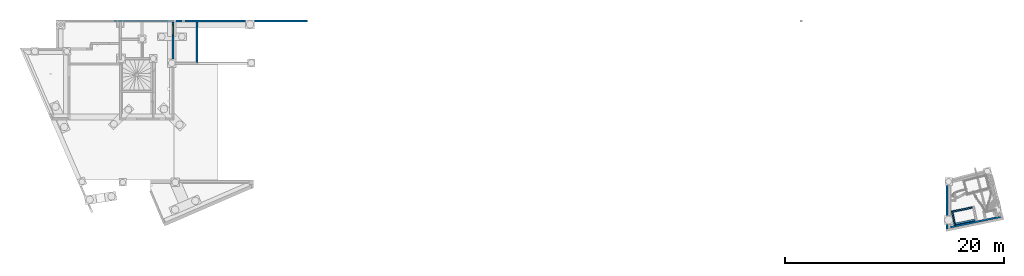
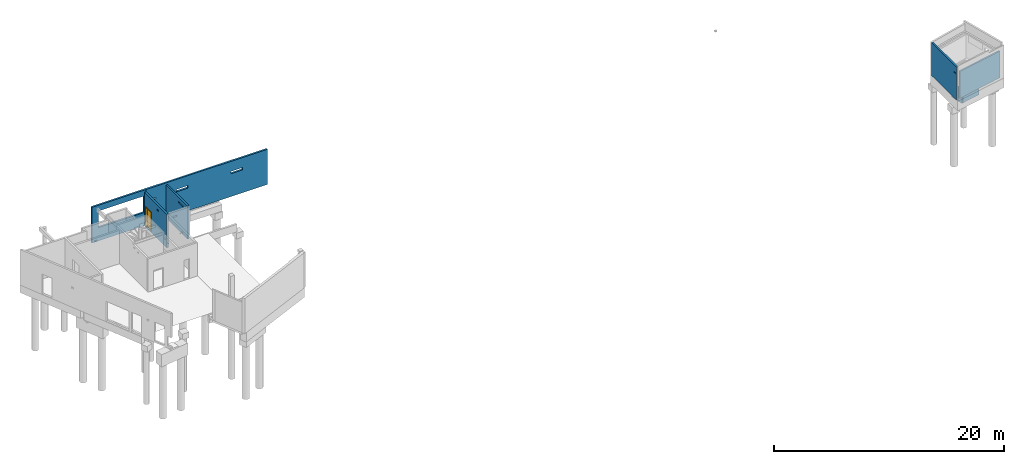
# One storey, part 6 of 29: 9 walls, 1 door, 11 openings.
"""IFC2X3 building model written with IfcOpenShell, lengths in centimetres."""

from ifc_helpers import new_model, entity, si_unit, converted_unit, derived_unit, direction, frame, frame_2d, origin, place, context, subcontext, project, spatial, polyline, rectangle, outline, extrude, clip, bounded_halfspace, faceted_brep, source, transform, mapped, material, material_list, layer, layer_set, layer_usage, type_object, type_shapes, element, fill, save


model = new_model("IFC2X3")

# Units and contexts
model_context = context("Model", 3, precision=0.001, world=origin(), true_north=direction((6.12303176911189e-17, 1.0)))
body_context = subcontext(model_context, "Body", "Model", "MODEL_VIEW")
ifc_project = project(units=[si_unit("LENGTHUNIT", "METRE", prefix="CENTI"), si_unit("AREAUNIT", "SQUARE_METRE"), si_unit("VOLUMEUNIT", "CUBIC_METRE"), converted_unit("PLANEANGLEUNIT", "DEGREE", entity("IfcRatioMeasure", 0.0174532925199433), si_unit("PLANEANGLEUNIT", "RADIAN"), dimensions=[0, 0, 0, 0, 0, 0, 0]), si_unit("MASSUNIT", "GRAM", prefix="KILO"), derived_unit("MASSDENSITYUNIT", [(si_unit("MASSUNIT", "GRAM", prefix="KILO"), 1), (si_unit("LENGTHUNIT", "METRE"), -3)]), si_unit("TIMEUNIT", "SECOND"), si_unit("FREQUENCYUNIT", "HERTZ"), si_unit("THERMODYNAMICTEMPERATUREUNIT", "DEGREE_CELSIUS"), derived_unit("THERMALTRANSMITTANCEUNIT", [(si_unit("MASSUNIT", "GRAM", prefix="KILO"), 1), (si_unit("THERMODYNAMICTEMPERATUREUNIT", "KELVIN"), -1), (si_unit("TIMEUNIT", "SECOND"), -3)]), derived_unit("VOLUMETRICFLOWRATEUNIT", [(si_unit("LENGTHUNIT", "METRE"), 3), (si_unit("TIMEUNIT", "SECOND"), -1)]), si_unit("ELECTRICCURRENTUNIT", "AMPERE"), si_unit("ELECTRICVOLTAGEUNIT", "VOLT"), si_unit("POWERUNIT", "WATT"), si_unit("FORCEUNIT", "NEWTON"), si_unit("ILLUMINANCEUNIT", "LUX"), si_unit("LUMINOUSFLUXUNIT", "LUMEN"), si_unit("LUMINOUSINTENSITYUNIT", "CANDELA"), derived_unit("USERDEFINED", [(si_unit("MASSUNIT", "GRAM", prefix="KILO"), -1), (si_unit("LENGTHUNIT", "METRE"), -2), (si_unit("TIMEUNIT", "SECOND"), 3), (si_unit("LUMINOUSFLUXUNIT", "LUMEN"), 1)]), derived_unit("LINEARVELOCITYUNIT", [(si_unit("LENGTHUNIT", "METRE"), 1), (si_unit("TIMEUNIT", "SECOND"), -1)]), si_unit("PRESSUREUNIT", "PASCAL"), derived_unit("USERDEFINED", [(si_unit("LENGTHUNIT", "METRE"), -2), (si_unit("MASSUNIT", "GRAM", prefix="KILO"), 1), (si_unit("TIMEUNIT", "SECOND"), -2)])], contexts=[model_context])

# Site, building, storey
site_placement = place(None, origin())
site = spatial("IfcSite", under=ifc_project, at=site_placement, Name="Default", CompositionType="ELEMENT")
building_placement = place(site_placement, origin())
building = spatial("IfcBuilding", under=site, at=building_placement, Name="CAGE 03", CompositionType="ELEMENT")
storey_placement = place(building_placement, frame((0.0, 0.0, -34.0)))
storey = spatial("IfcBuildingStorey", under=building, at=storey_placement, Name="+3.66", CompositionType="ELEMENT", Elevation=-34.0000000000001)

# Wall, openings
ifc_material_1 = material(Name="Béton, C25/30")
ifc_layer_1 = layer(ifc_material_1, 18.0)
ifc_layer_set_1 = layer_set([ifc_layer_1], Name="Mur de base:Voile BA 18")
ifc_layer_usage_1 = layer_usage(ifc_layer_set_1, "AXIS2", "POSITIVE", -9.0)
wall_type_1 = type_object("IfcWallType", Name="Mur de base:Voile BA 18", PredefinedType="STANDARD", material=ifc_layer_set_1)
wall_1_placement = place(storey_placement, frame((5373.36582014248, 5284.66066607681, 0.0), z_axis=(0.0, 0.0, 1.0), x_axis=(-1.0, 0.0, 0.0)))
wall_1 = element("IfcWallStandardCase", 1, at=wall_1_placement, inside=storey, type_object=wall_type_1, material=ifc_layer_usage_1, Name="Mur de base:Voile BA 18", ObjectType="Mur de base:Voile BA 18", context=body_context, shape_type="SweptSolid", body=[
    extrude(rectangle(XDim=1230.0, YDim=17.9999999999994, at=frame_2d((615.000000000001, -3.31290550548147e-13), x_axis=(-1.0, 0.0))), origin(), (0.0, 0.0, 1.0), 374.0),
])
opening_1_placement = place(storey_placement, frame((5373.36582014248, 5284.66066607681, 0.0), z_axis=(0.0, 0.0, 1.0), x_axis=(-1.0, 0.0, 0.0)))
element("IfcOpeningElement", 2, at=opening_1_placement, cuts=wall_1, Name="Mur de base:Voile BA 18:1", ObjectType="Opening", context=body_context, shape_type="SweptSolid", body=[
    extrude(rectangle(XDim=18.0000000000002, YDim=22.0000000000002, at=frame_2d((-4.33431068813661e-13, -4.33431068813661e-13), x_axis=(1.0, 0.0))), frame((1135.0, 0.0, 242.0), z_axis=(0.0, 0.0, 1.0), x_axis=(0.0, 1.0, 0.0)), (0.0, 0.0, 1.0), 12.0),
])
opening_2_placement = place(storey_placement, frame((5373.36582014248, 5284.66066607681, 0.0), z_axis=(0.0, 0.0, 1.0), x_axis=(-1.0, 0.0, 0.0)))
element("IfcOpeningElement", 3, at=opening_2_placement, cuts=wall_1, Name="Mur de base:Voile BA 18:2", ObjectType="Opening", context=body_context, shape_type="SweptSolid", body=[
    extrude(rectangle(XDim=18.0000000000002, YDim=22.0000000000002, at=frame_2d((-4.33431068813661e-13, -4.33431068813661e-13), x_axis=(1.0, 0.0))), frame((1135.0, 0.0, 42.0), z_axis=(0.0, 0.0, 1.0), x_axis=(0.0, 1.0, 0.0)), (0.0, 0.0, 1.0), 12.0),
])
opening_3_placement = place(wall_1_placement, frame((5373.36582014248, 5284.66066607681, -366.0), z_axis=(0.0, 0.0, 1.0), x_axis=(-1.0, 0.0, 0.0)))
element("IfcOpeningElement", 4, at=opening_3_placement, cuts=wall_1, Name="Mur de base:Voile BA 18", ObjectType="Opening", context=body_context, shape_type="SweptSolid", body=[
    extrude(rectangle(XDim=25.9999999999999, YDim=116.0, at=frame_2d((1.33226762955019e-14, 0.0), x_axis=(1.0, 0.0))), frame((4514.36582014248, 5428.06066607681, 621.0), z_axis=(0.0, -1.0, 0.0), x_axis=(0.0, 0.0, -1.0)), (0.0, 0.0, 1.0), 304.8),
])
opening_4_placement = place(wall_1_placement, frame((5373.36582014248, 5284.66066607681, -366.0), z_axis=(0.0, 0.0, 1.0), x_axis=(-1.0, 0.0, 0.0)))
element("IfcOpeningElement", 5, at=opening_4_placement, cuts=wall_1, Name="Mur de base:Voile BA 18", ObjectType="Opening", context=body_context, shape_type="SweptSolid", body=[
    extrude(rectangle(XDim=25.9999999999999, YDim=116.0, at=frame_2d((1.33226762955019e-14, 0.0), x_axis=(1.0, 0.0))), frame((5064.36582014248, 5428.06066607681, 621.0), z_axis=(0.0, -1.0, 0.0), x_axis=(0.0, 0.0, -1.0)), (0.0, 0.0, 1.0), 304.8),
])

# Wall, openings, door
ifc_layer_usage_2 = layer_usage(ifc_layer_set_1, "AXIS2", "POSITIVE", -9.0)
wall_2_placement = place(storey_placement, frame((4143.36582014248, 5275.66066607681, -5.0), z_axis=(0.0, 0.0, 1.0), x_axis=(0.0, -1.0, 0.0)))
wall_2 = element("IfcWallStandardCase", 6, at=wall_2_placement, inside=storey, type_object=wall_type_1, material=ifc_layer_usage_2, Name="Mur de base:Voile BA 18", ObjectType="Mur de base:Voile BA 18", context=body_context, shape_type="SweptSolid", body=[
    extrude(rectangle(XDim=389.000000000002, YDim=17.9999999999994, at=frame_2d((194.500000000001, 7.63833440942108e-14), x_axis=(-1.0, 0.0))), origin(), (0.0, 0.0, 1.0), 356.0),
])
opening_5_placement = place(storey_placement, frame((4143.36582014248, 5275.66066607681, -5.0), z_axis=(0.0, 0.0, 1.0), x_axis=(0.0, -1.0, 0.0)))
element("IfcOpeningElement", 7, at=opening_5_placement, cuts=wall_2, Name="Mur de base:Voile BA 18:1", ObjectType="Opening", context=body_context, shape_type="SweptSolid", body=[
    extrude(rectangle(XDim=17.9999999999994, YDim=30.0000000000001, at=frame_2d((8.65973959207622e-13, 0.0), x_axis=(1.0, 0.0))), frame((233.562568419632, 0.0, 298.996920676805), z_axis=(0.0, 0.0, 1.0), x_axis=(0.0, -1.0, 0.0)), (0.0, 0.0, 1.0), 14.0),
])
opening_6_placement = place(wall_2_placement, frame((22.0, -9.0, 5.0)))
opening_6 = element("IfcOpeningElement", 8, at=opening_6_placement, cuts=wall_2, Name="Int. Simple:HB93:1", ObjectType="Opening", context=body_context, shape_type="SweptSolid", body=[
    extrude(rectangle(XDim=210.000000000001, YDim=96.9999999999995, at=frame_2d((105.000000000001, 48.4999999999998), x_axis=(1.0, 0.0))), frame((0.0, 0.0, 0.0), z_axis=(0.0, 1.0, 0.0), x_axis=(0.0, 0.0, 1.0)), (0.0, 0.0, 1.0), 18.0),
])
ifc_material_2 = material(Name="Finition Peinture - Blanc satiné")
ifc_material_3 = material(Name="Bois - Panneau de porte")
ifc_material_4 = material(Name="Bois - Cadre de porte")
ifc_material_list_1 = material_list([ifc_material_2, ifc_material_3, ifc_material_4])
ifc_material_list_2 = material_list([ifc_material_2, ifc_material_3, ifc_material_4])
door_style = type_object("IfcDoorStyle", Name="HB93", ConstructionType="NOTDEFINED", OperationType="SINGLE_SWING_LEFT", ParameterTakesPrecedence=False, Sizeable=False, material=ifc_material_list_2)
shared_shape = source(origin(), body_context, "Body", "Brep", [
    faceted_brep([(10.5352761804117, -0.500000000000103, 86.6003983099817), (11.5000000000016, -0.500000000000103, 87.0), (11.5000000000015, -0.500000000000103, 108.0), (10.5352761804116, -0.500000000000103, 108.399601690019), (9.50000000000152, -0.500000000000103, 108.535898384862), (8.46472381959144, -0.500000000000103, 108.399601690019), (7.50000000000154, -0.500000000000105, 108.0), (7.50000000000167, -0.500000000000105, 87.0), (8.46472381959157, -0.500000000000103, 86.6003983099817), (9.50000000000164, -0.500000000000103, 86.464101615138), (10.5352761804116, 0.0, 108.399601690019), (11.5000000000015, 0.0, 108.0), (11.5000000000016, 0.0, 87.0), (10.5352761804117, 0.0, 86.6003983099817), (9.50000000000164, 0.0, 86.464101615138), (8.46472381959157, 0.0, 86.6003983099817), (7.50000000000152, 0.0, 87.0), (7.50000000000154, 0.0, 108.0), (8.46472381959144, 0.0, 108.399601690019), (9.50000000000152, 0.0, 108.535898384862)], [[[0, 1, 2, 3, 4, 5, 6, 7, 8, 9]], [[10, 11, 12, 13, 14, 15, 16, 17, 18, 19]], [[16, 15, 8, 7]], [[8, 15, 14, 9]], [[14, 13, 0, 9]], [[13, 12, 1, 0]], [[2, 1, 12, 11]], [[11, 10, 3, 2]], [[3, 10, 19, 4]], [[19, 18, 5, 4]], [[18, 17, 6, 5]], [[7, 6, 17, 16]]]),
    faceted_brep([(10.5352761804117, 4.0, 86.6003983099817), (11.5000000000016, 4.0, 87.0), (11.5000000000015, 4.0, 108.0), (10.5352761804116, 4.0, 108.399601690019), (9.50000000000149, 4.0, 108.535898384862), (8.46472381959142, 4.0, 108.399601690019), (7.50000000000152, 4.0, 108.0), (7.50000000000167, 4.0, 87.0), (8.46472381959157, 4.0, 86.6003983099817), (9.50000000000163, 4.0, 86.464101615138), (10.5352761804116, 4.49999999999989, 108.399601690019), (11.5000000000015, 4.4999999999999, 108.0), (11.5000000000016, 4.4999999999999, 87.0), (10.5352761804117, 4.49999999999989, 86.6003983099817), (9.50000000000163, 4.49999999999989, 86.464101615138), (8.46472381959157, 4.49999999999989, 86.6003983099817), (7.50000000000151, 4.49999999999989, 87.0), (7.50000000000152, 4.49999999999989, 108.0), (8.46472381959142, 4.49999999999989, 108.399601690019), (9.50000000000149, 4.49999999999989, 108.535898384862)], [[[0, 1, 2, 3, 4, 5, 6, 7, 8, 9]], [[10, 11, 12, 13, 14, 15, 16, 17, 18, 19]], [[11, 10, 3, 2]], [[3, 10, 19, 4]], [[19, 18, 5, 4]], [[18, 17, 6, 5]], [[7, 6, 17, 16]], [[16, 15, 8, 7]], [[8, 15, 14, 9]], [[14, 13, 0, 9]], [[13, 12, 1, 0]], [[2, 1, 12, 11]]]),
    faceted_brep([(9.29747013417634, -0.500000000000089, 100.778044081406), (9.70252986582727, -0.500000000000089, 100.778044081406), (10.1000000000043, -0.500000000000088, 100.699999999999), (10.1000000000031, -0.500000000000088, 99.3000000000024), (9.70252986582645, -0.500000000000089, 99.2219559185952), (9.29747013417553, -0.500000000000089, 99.221955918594), (8.89999999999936, -0.500000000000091, 99.2999999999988), (8.89999999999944, -0.500000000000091, 100.7), (8.89999999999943, -3.26509507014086, 100.7), (9.29747013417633, -3.10045754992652, 100.778044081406), (10.9023585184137, -4.70534593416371, 100.778044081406), (11.0701397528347, -4.30028620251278, 100.778044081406), (9.70252986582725, -2.93267631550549, 100.778044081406), (10.1000000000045, -2.76803879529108, 100.7), (10.1000000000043, -2.76803879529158, 99.3000000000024), (9.70252986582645, -2.93267631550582, 99.2219559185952), (11.0701397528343, -4.30028620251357, 99.2219559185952), (10.9023585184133, -4.70534593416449, 99.221955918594), (9.29747013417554, -3.10045754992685, 99.221955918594), (8.89999999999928, -3.26509507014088, 99.2999999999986), (10.7377209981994, -5.1028160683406, 100.7), (11.2347772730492, -3.90281606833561, 100.7), (11.2347772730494, -3.90281606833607, 99.3000000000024), (10.7377209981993, -5.10281606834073, 99.2999999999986), (19.5018640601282, -5.1028160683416, 99.2999999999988), (19.5018640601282, -4.70534593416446, 99.221955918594), (19.5018640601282, -4.30028620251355, 99.2219559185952), (19.5018640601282, -3.90281606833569, 99.3000000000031), (19.5018640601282, -3.90281606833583, 100.7), (19.5018640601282, -4.30028620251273, 100.778044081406), (19.5018640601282, -4.70534593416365, 100.778044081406), (19.5018640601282, -5.10281606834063, 100.699999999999), (14.7307697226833, -5.10281606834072, 100.7), (15.28600190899, -4.5028160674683, 100.78786867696), (15.3683206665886, -3.9028160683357, 100.7), (15.3683206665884, -3.90281606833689, 99.3000000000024), (15.2860018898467, -4.50281607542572, 99.2121313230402), (14.7307700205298, -5.10281606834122, 99.2999999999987)], [[[0, 1, 2, 3, 4, 5, 6, 7]], [[8, 9, 0, 7]], [[9, 10, 11, 12, 1, 0]], [[12, 13, 2, 1]], [[3, 2, 13, 14]], [[14, 15, 4, 3]], [[15, 16, 17, 18, 5, 4]], [[18, 19, 6, 5]], [[7, 6, 19, 8]], [[20, 10, 9, 8]], [[11, 21, 13, 12]], [[14, 13, 21, 22]], [[22, 16, 15, 14]], [[17, 23, 19, 18]], [[8, 19, 23, 20]], [[24, 25, 26, 27, 28, 29, 30, 31]], [[32, 30, 33]], [[31, 30, 32]], [[10, 20, 32]], [[33, 34, 11]], [[21, 11, 34]], [[34, 29, 28]], [[30, 29, 33]], [[29, 34, 33]], [[10, 32, 33]], [[10, 33, 11]], [[22, 21, 34, 28, 27, 35]], [[35, 26, 36]], [[37, 36, 25]], [[22, 35, 16]], [[35, 27, 26]], [[24, 37, 25]], [[23, 17, 37]], [[37, 17, 36]], [[17, 16, 36]], [[16, 35, 36]], [[25, 36, 26]], [[20, 23, 37, 24, 31, 32]]]),
    faceted_brep([(9.29747013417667, 4.49999999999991, 100.778044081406), (8.89999999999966, 4.49999999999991, 100.7), (8.89999999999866, 4.49999999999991, 99.2999999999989), (9.2974701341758, 4.49999999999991, 99.221955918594), (9.70252986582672, 4.49999999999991, 99.2219559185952), (10.1000000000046, 4.49999999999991, 99.3000000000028), (10.1000000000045, 4.49999999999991, 100.7), (9.70252986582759, 4.49999999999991, 100.778044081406), (10.1000000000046, 6.7485204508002, 99.3000000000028), (10.1000000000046, 6.74852045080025, 100.7), (9.70252986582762, 6.91315797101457, 100.778044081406), (11.0838906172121, 8.29451872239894, 100.778044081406), (10.9161093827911, 8.69957845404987, 100.778044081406), (9.29747013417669, 7.0809392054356, 100.778044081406), (8.89999999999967, 7.24557672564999, 100.7), (8.89999999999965, 7.24557672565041, 99.2999999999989), (9.29747013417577, 7.08093920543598, 99.221955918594), (10.9161093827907, 8.69957845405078, 99.221955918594), (11.0838906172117, 8.29451872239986, 99.2219559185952), (9.7025298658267, 6.91315797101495, 99.2219559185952), (11.2485281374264, 7.89704858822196, 99.3000000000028), (11.2485281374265, 7.89704858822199, 100.7), (10.7514718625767, 9.0970485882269, 100.7), (10.751471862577, 9.0970485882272, 99.2999999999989), (19.504578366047, 7.89704858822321, 99.3000000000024), (19.504578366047, 8.29451872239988, 99.2219559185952), (19.504578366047, 8.6995784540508, 99.221955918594), (19.504578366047, 9.09704858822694, 99.2999999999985), (19.504578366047, 9.09704858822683, 100.7), (19.504578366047, 8.69957845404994, 100.778044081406), (19.504578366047, 8.29451872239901, 100.778044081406), (19.504578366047, 7.89704858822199, 100.7), (15.3765520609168, 7.89704858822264, 99.3000000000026), (15.3765532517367, 7.89704858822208, 100.7), (15.294234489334, 8.49704858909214, 100.78786867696), (14.7445205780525, 9.09704858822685, 100.7), (14.7445204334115, 9.09704858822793, 99.2999999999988), (15.2942345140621, 8.49704858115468, 99.2121313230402)], [[[0, 1, 2, 3, 4, 5, 6, 7]], [[6, 5, 8, 9]], [[9, 10, 7, 6]], [[10, 11, 12, 13, 0, 7]], [[13, 14, 1, 0]], [[2, 1, 14, 15]], [[15, 16, 3, 2]], [[16, 17, 18, 19, 4, 3]], [[19, 8, 5, 4]], [[9, 8, 20, 21]], [[21, 11, 10, 9]], [[12, 22, 14, 13]], [[15, 14, 22, 23]], [[23, 17, 16, 15]], [[18, 20, 8, 19]], [[24, 25, 26, 27, 28, 29, 30, 31]], [[21, 20, 32, 24, 31, 33]], [[33, 30, 34]], [[35, 34, 29]], [[21, 33, 11]], [[33, 31, 30]], [[28, 35, 29]], [[22, 12, 35]], [[35, 12, 34]], [[12, 11, 34]], [[11, 33, 34]], [[29, 34, 30]], [[22, 35, 28, 27, 36, 23]], [[36, 26, 37]], [[27, 26, 36]], [[17, 23, 36]], [[37, 32, 18]], [[20, 18, 32]], [[32, 25, 24]], [[26, 25, 37]], [[25, 32, 37]], [[17, 36, 37]], [[17, 37, 18]]]),
    faceted_brep([(3.50000000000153, 4.0, 206.5), (93.5000000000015, 4.0, 206.5), (93.5000000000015, 4.0, 0.0), (3.50000000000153, 4.0, 0.0), (3.50000000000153, 0.0, 206.5), (3.50000000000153, 0.0, 0.0), (93.5000000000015, 0.0, 0.0), (93.5000000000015, 0.0, 206.5)], [[[0, 1, 2, 3]], [[4, 5, 6, 7]], [[1, 0, 4, 7]], [[2, 1, 7, 6]], [[3, 2, 6, 5]], [[0, 3, 5, 4]]]),
    faceted_brep([(0.0, 0.0, 0.0), (0.0, 18.0, 0.0), (5.0, 18.0, 0.0), (5.0, 4.0, 0.0), (3.50000000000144, 4.0, 0.0), (3.50000000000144, 0.0, 0.0), (0.0, 0.0, 210.0), (0.0, 18.0, 210.0), (97.0, 18.0, 210.0), (97.0, 18.0, 0.0), (92.0, 18.0, 0.0), (92.0, 18.0, 205.0), (5.0, 18.0, 205.0), (5.0, 4.0, 205.0), (92.0, 4.0, 205.0), (92.0, 4.0, 0.0), (93.4999999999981, 4.0, 0.0), (93.4999999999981, 4.0, 206.5), (3.50000000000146, 4.0, 206.5), (3.50000000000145, 0.0, 206.5), (93.4999999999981, 0.0, 206.5), (93.4999999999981, 0.0, 0.0), (97.0, 0.0, 0.0), (97.0, 0.0, 210.0)], [[[0, 1, 2, 3, 4, 5]], [[1, 0, 6, 7]], [[2, 1, 7, 8, 9, 10, 11, 12]], [[3, 2, 12, 13]], [[4, 3, 13, 14, 15, 16, 17, 18]], [[5, 4, 18, 19]], [[0, 5, 19, 20, 21, 22, 23, 6]], [[8, 23, 22, 9]], [[22, 21, 16, 15, 10, 9]], [[14, 11, 10, 15]], [[20, 17, 16, 21]], [[7, 6, 23, 8]], [[13, 12, 11, 14]], [[19, 18, 17, 20]]]),
    faceted_brep([(1.5, 18.0, 0.0), (-1.49999999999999, 18.0, 0.0), (-1.49999999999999, 18.5000000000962, 0.0), (1.5, 18.5000000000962, 0.0), (1.5, 18.0, 208.500000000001), (95.4999999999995, 18.0, 208.500000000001), (95.4999999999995, 18.0, 0.0), (98.4999999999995, 18.0, 0.0), (98.4999999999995, 18.0, 211.500000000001), (-1.49999999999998, 18.0, 211.500000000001), (-1.49999999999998, 18.5000000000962, 211.500000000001), (98.4999999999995, 18.5000000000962, 211.500000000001), (98.4999999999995, 18.5000000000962, 0.0), (95.4999999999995, 18.5000000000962, 0.0), (95.4999999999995, 18.5000000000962, 208.500000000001), (1.50000000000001, 18.5000000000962, 208.500000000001)], [[[0, 1, 2, 3]], [[1, 0, 4, 5, 6, 7, 8, 9]], [[2, 1, 9, 10]], [[3, 2, 10, 11, 12, 13, 14, 15]], [[0, 3, 15, 4]], [[6, 13, 12, 7]], [[5, 14, 13, 6]], [[11, 8, 7, 12]], [[10, 9, 8, 11]], [[4, 15, 14, 5]]]),
    faceted_brep([(-1.49999999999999, -0.5, 0.0), (1.5, -0.5, 0.0), (1.5, -0.5, 208.500000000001), (95.4999999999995, -0.5, 208.500000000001), (95.4999999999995, -0.5, 0.0), (98.4999999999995, -0.5, 0.0), (98.4999999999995, -0.5, 211.500000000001), (-1.49999999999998, -0.5, 211.500000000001), (-1.49999999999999, 0.0, 0.0), (-1.49999999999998, 0.0, 211.500000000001), (1.5, 0.0, 0.0), (98.4999999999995, 0.0, 211.500000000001), (98.4999999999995, 0.0, 0.0), (95.4999999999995, 0.0, 0.0), (95.4999999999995, 0.0, 208.500000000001), (1.50000000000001, 0.0, 208.500000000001)], [[[0, 1, 2, 3, 4, 5, 6, 7]], [[8, 0, 7, 9]], [[10, 8, 9, 11, 12, 13, 14, 15]], [[1, 10, 15, 2]], [[3, 14, 13, 4]], [[11, 6, 5, 12]], [[9, 7, 6, 11]], [[2, 15, 14, 3]], [[4, 13, 12, 5]], [[1, 0, 8, 10]]]),
])
type_shapes(door_style, [shared_shape])
door_placement = place(opening_6_placement, frame((97.0, 18.0, 0.0), z_axis=(0.0, 0.0, 1.0), x_axis=(-1.0, 0.0, 0.0)))
door = element("IfcDoor", 9, at=door_placement, inside=storey, type_object=door_style, material=ifc_material_list_1, Name="Int. Simple:HB93", ObjectType="HB93", OverallHeight=210.000000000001, OverallWidth=96.9999999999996, context=body_context, shape_type="MappedRepresentation", body=[
    mapped(shared_shape, transform((0.0, 0.0, 0.0), scale=1.0)),
])
fill(opening_6, door)

# Wall, opening
ifc_layer_usage_3 = layer_usage(ifc_layer_set_1, "AXIS2", "POSITIVE", -9.0)
wall_3_placement = place(storey_placement, frame((4361.36582014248, 5275.66066607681, 0.0), z_axis=(0.0, 0.0, 1.0), x_axis=(0.0, -1.0, 0.0)))
wall_3 = element("IfcWallStandardCase", 10, at=wall_3_placement, inside=storey, type_object=wall_type_1, material=ifc_layer_usage_3, Name="Mur de base:Voile BA 18", ObjectType="Mur de base:Voile BA 18", context=body_context, shape_type="SweptSolid", body=[
    extrude(rectangle(XDim=371.000000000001, YDim=17.9999999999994, at=frame_2d((185.500000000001, 8.5265128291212e-14), x_axis=(-1.0, 0.0))), origin(), (0.0, 0.0, 1.0), 351.0),
])
opening_7_placement = place(storey_placement, frame((4361.36582014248, 5275.66066607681, 0.0), z_axis=(0.0, 0.0, 1.0), x_axis=(0.0, -1.0, 0.0)))
element("IfcOpeningElement", 11, at=opening_7_placement, cuts=wall_3, Name="Mur de base:Voile BA 18:1", ObjectType="Opening", context=body_context, shape_type="SweptSolid", body=[
    extrude(rectangle(XDim=18.0000000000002, YDim=72.0000000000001, at=frame_2d((-4.33431068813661e-13, 4.33431068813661e-13), x_axis=(1.0, 0.0))), frame((254.925783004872, 0.0, 294.076580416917), z_axis=(0.0, 0.0, 1.0), x_axis=(0.0, 1.0, 0.0)), (0.0, 0.0, 1.0), 14.0),
])

ifc_layer_usage_4 = layer_usage(ifc_layer_set_1, "AXIS2", "NEGATIVE", 9.0)
wall_4_placement = place(storey_placement, frame((11210.3658201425, 3819.7782005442, 0.0), z_axis=(0.0, 0.0, 1.0), x_axis=(0.0, -1.0, 0.0)))
wall_4 = element("IfcWallStandardCase", 12, at=wall_4_placement, inside=storey, type_object=wall_type_1, material=ifc_layer_usage_4, Name="Mur de base:Voile BA 18", ObjectType="Mur de base:Voile BA 18", context=body_context, shape_type="SweptSolid", body=[
    extrude(outline(polyline([(436.428851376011, -9.0), (432.718979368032, 9.0), (0.0, 9.0), (4.70077462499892, -9.0), (436.428851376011, -9.0)])), origin(), (0.0, 0.0, 1.0), 351.0),
])
opening_8_placement = place(storey_placement, frame((11210.3658201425, 3819.7782005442, 0.0), z_axis=(0.0, 0.0, 1.0), x_axis=(0.0, -1.0, 0.0)))
element("IfcOpeningElement", 13, at=opening_8_placement, cuts=wall_4, Name="Mur de base:Voile BA 18:1", ObjectType="Opening", context=body_context, shape_type="SweptSolid", body=[
    extrude(rectangle(XDim=17.9999999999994, YDim=30.0000000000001, at=frame_2d((-8.65973959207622e-13, 0.0), x_axis=(1.0, 0.0))), frame((403.907333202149, 0.0, 269.513701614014), z_axis=(0.0, 0.0, 1.0), x_axis=(0.0, -1.0, 0.0)), (0.0, 0.0, 1.0), 15.0),
])

# Wall, openings
ifc_layer_usage_5 = layer_usage(ifc_layer_set_1, "AXIS2", "POSITIVE", -9.0)
wall_5_placement = place(storey_placement, frame((4152.36582014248, 5284.66066607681, -5.0), z_axis=(0.0, 0.0, 1.0), x_axis=(-1.0, 0.0, 0.0)))
wall_5 = element("IfcWallStandardCase", 14, at=wall_5_placement, inside=storey, type_object=wall_type_1, material=ifc_layer_usage_5, Name="Mur de base:Voile BA 18", ObjectType="Mur de base:Voile BA 18", context=body_context, shape_type="SweptSolid", body=[
    extrude(rectangle(XDim=545.999999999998, YDim=18.0000000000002, at=frame_2d((272.999999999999, -5.24025267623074e-14), x_axis=(-1.0, 0.0))), origin(), (0.0, 0.0, 1.0), 379.0),
])
opening_9_placement = place(wall_5_placement, origin())
element("IfcOpeningElement", 15, at=opening_9_placement, cuts=wall_5, Name="Mur de base:Voile BA 18", ObjectType="Opening", context=body_context, shape_type="SweptSolid", body=[
    extrude(rectangle(XDim=312.0, YDim=529.0, at=frame_2d((0.0, -4.2632564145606e-13), x_axis=(1.0, 0.0))), frame((810.499999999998, -161.399999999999, 161.0), z_axis=(0.0, 1.0, 0.0), x_axis=(0.0, 0.0, 1.0)), (0.0, 0.0, 1.0), 304.8),
])
opening_10_placement = place(wall_5_placement, frame((4152.36582014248, 5284.66066607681, 0.0), z_axis=(0.0, 0.0, 1.0), x_axis=(-1.0, 0.0, 0.0)))
element("IfcOpeningElement", 16, at=opening_10_placement, cuts=wall_5, Name="Mur de base:Voile BA 18", ObjectType="Opening", context=body_context, shape_type="SweptSolid", body=[
    extrude(rectangle(XDim=176.0, YDim=456.0, at=frame_2d((2.1316282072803e-13, 0.0), x_axis=(0.0, 1.0))), frame((3903.36582014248, 5428.06066607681, 229.0), z_axis=(0.0, -1.0, 0.0), x_axis=(1.0, 0.0, 0.0)), (0.0, 0.0, 1.0), 304.8),
])

# Wall, opening
ifc_layer_2 = layer(ifc_material_1, 16.0)
ifc_layer_set_2 = layer_set([ifc_layer_2], Name="Mur de base:Voile BA 16")
ifc_layer_usage_6 = layer_usage(ifc_layer_set_2, "AXIS2", "POSITIVE", -8.0)
wall_type_2 = type_object("IfcWallType", Name="Mur de base:Voile BA 16", PredefinedType="STANDARD", material=ifc_layer_set_2)
wall_6_placement = place(storey_placement, frame((11238.7509307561, 3402.28577396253, 1.0), z_axis=(0.0, 0.0, 1.0), x_axis=(0.979414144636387, 0.201861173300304, 0.0)))
wall_6 = element("IfcWallStandardCase", 17, at=wall_6_placement, inside=storey, type_object=wall_type_2, material=ifc_layer_usage_6, Name="Mur de base:Voile BA 16", ObjectType="Mur de base:Voile BA 16", context=body_context, shape_type="SweptSolid", body=[
    extrude(outline(polyline([(469.743578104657, -8.0), (469.743578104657, 8.0), (3.2976640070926, 8.0), (0.0, -8.0), (469.743578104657, -8.0)])), origin(), (0.0, 0.0, 1.0), 284.0),
])
opening_11_placement = place(storey_placement, frame((11238.7509307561, 3402.28577396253, 1.0), z_axis=(0.0, 0.0, 1.0), x_axis=(0.979414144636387, 0.201861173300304, 0.0)))
element("IfcOpeningElement", 18, at=opening_11_placement, cuts=wall_6, Name="Mur de base:Voile BA 16:1", ObjectType="Opening", context=body_context, shape_type="SweptSolid", body=[
    extrude(outline(polyline([(-280.603849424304, -2.5913934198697), (186.769532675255, -2.59139341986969), (186.769532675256, 1.36557367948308), (186.741165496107, 1.90860658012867), (-279.67638142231, 1.90860658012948), (-280.603849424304, -2.5913934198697)])), frame((282.974045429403, 6.0913934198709, 249.0)), (0.0, 0.0, 1.0), 20.0),
])

# Walls
ifc_layer_3 = layer(ifc_material_1, 15.0)
ifc_layer_set_3 = layer_set([ifc_layer_3], Name="Mur de base:Voile BA 15")
ifc_layer_usage_7 = layer_usage(ifc_layer_set_3, "AXIS2", "POSITIVE", -7.5)
wall_type_3 = type_object("IfcWallType", Name="Mur de base:Voile BA 15", PredefinedType="STANDARD", material=ifc_layer_set_3)
wall_7_placement = place(storey_placement, frame((11263.5709911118, 3545.74929986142, -80.0), z_axis=(0.0, 0.0, 1.0), x_axis=(0.979414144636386, 0.201861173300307, 0.0)))
element("IfcWallStandardCase", 19, at=wall_7_placement, inside=storey, type_object=wall_type_3, material=ifc_layer_usage_7, Name="Mur de base:Voile BA 15", ObjectType="Mur de base:Voile BA 15", context=body_context, shape_type="SweptSolid", body=[
    extrude(rectangle(XDim=185.000000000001, YDim=14.9999999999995, at=frame_2d((92.5000000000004, 2.66453525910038e-14), x_axis=(-1.0, 0.0))), origin(), (0.0, 0.0, 1.0), 78.5),
])
ifc_layer_usage_8 = layer_usage(ifc_layer_set_3, "AXIS2", "POSITIVE", -7.5)
wall_8_placement = place(storey_placement, frame((11281.9626846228, 3419.36003762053, -80.0), z_axis=(0.0, 0.0, 1.0), x_axis=(-0.201861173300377, 0.979414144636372, 0.0)))
element("IfcWallStandardCase", 20, at=wall_8_placement, inside=storey, type_object=wall_type_3, material=ifc_layer_usage_8, Name="Mur de base:Voile BA 15", ObjectType="Mur de base:Voile BA 15", context=body_context, shape_type="Clipping", body=[
    clip(extrude(rectangle(XDim=134.999999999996, YDim=15.0000000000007, at=frame_2d((67.4999999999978, -5.31574784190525e-13), x_axis=(-1.0, 0.0))), origin(), (0.0, 0.0, 1.0), 68.0), bounded_halfspace(frame((5.0, -7.49999999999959, 68.0), z_axis=(0.0, 0.0, -1.0), x_axis=(-0.998638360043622, -0.0521672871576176, 0.0)), True, frame((5.0, -7.49999999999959, 68.0), z_axis=(0.0, 0.0, -1.0), x_axis=(-0.998638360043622, -0.0521672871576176, 0.0)), polyline([(0.0, 0.0), (4.99319180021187, 0.260836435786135), (4.2106824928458, 15.2404118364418), (-130.605496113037, 8.19782807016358), (-129.822986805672, -6.78174733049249), (0.0, 0.0)]))),
])
ifc_layer_4 = layer(ifc_material_1, 20.0)
ifc_layer_set_4 = layer_set([ifc_layer_4], Name="Mur de base:Voile BA 20")
ifc_layer_usage_9 = layer_usage(ifc_layer_set_4, "AXIS2", "NEGATIVE", 10.0)
wall_type_4 = type_object("IfcWallType", Name="Mur de base:Voile BA 20", PredefinedType="STANDARD", material=ifc_layer_set_4)
wall_9_placement = place(storey_placement, frame((11287.2896789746, 3430.66813786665, -80.0), z_axis=(0.0, 0.0, 1.0), x_axis=(0.979414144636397, 0.201861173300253, 0.0)))
element("IfcWallStandardCase", 21, at=wall_9_placement, inside=storey, type_object=wall_type_4, material=ifc_layer_usage_9, Name="Mur de base:Voile BA 20", ObjectType="Mur de base:Voile BA 20", context=body_context, shape_type="Clipping", body=[
    clip(clip(extrude(rectangle(XDim=184.999999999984, YDim=19.9999999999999, at=frame_2d((92.4999999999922, -8.43769498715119e-14), x_axis=(-1.0, 0.0))), origin(), (0.0, 0.0, 1.0), 78.5), bounded_halfspace(frame((185.0, -5.0, 68.0), z_axis=(0.0, 0.0, -1.0), x_axis=(0.0521672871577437, -0.998638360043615, 0.0)), True, frame((185.0, -5.0, 68.0), z_axis=(0.0, 0.0, -1.0), x_axis=(0.0521672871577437, -0.998638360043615, 0.0)), polyline([(0.0, 0.0), (4.99319180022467, 0.260836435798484), (-4.65775632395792, 185.008933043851), (-9.65094812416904, 184.748096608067), (0.0, 0.0)]))), bounded_halfspace(frame((0.0, -5.0, 68.0), z_axis=(0.0, 1.0, 0.0), x_axis=(0.0, 0.0, 1.0)), True, frame((0.0, -5.0, 68.0), z_axis=(0.0, 1.0, 0.0), x_axis=(0.0, 0.0, 1.0)), polyline([(0.0, 0.0), (10.5, 0.0), (10.5, 185.0), (0.0, 185.0), (0.0, 0.0)]))),
])

save(model, "model.ifc")
